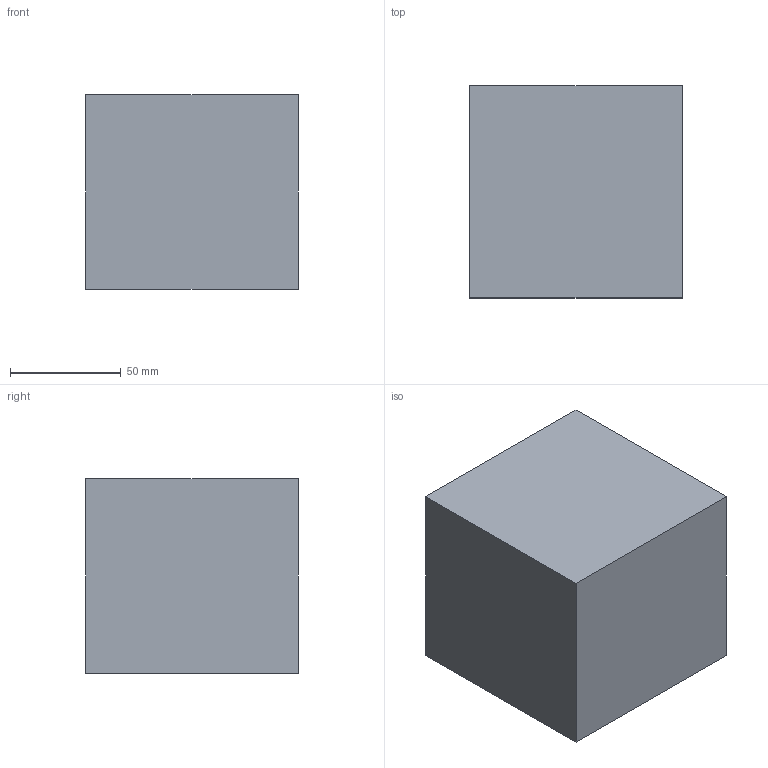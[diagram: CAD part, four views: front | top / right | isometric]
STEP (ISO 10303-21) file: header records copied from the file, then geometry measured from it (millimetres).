
FILE_DESCRIPTION(('Open CASCADE Model'),'2;1');
FILE_NAME('prop_case','2026-08-12T02:42:45',('Author'),('Open CASCADE'), 'Open CASCADE STEP processor 7.9','build123d','Unknown');
FILE_SCHEMA(('AUTOMOTIVE_DESIGN { 1 0 10303 214 1 1 1 1 }'));
Length unit declared in the file: millimetre
Products named in the file (1): prop_case
Bounding box: 96 x 96 x 88 mm (x, y, z)
Volume: 100032 mm3; surface area: 100064 mm2
Topology: 1 solids, 2 shells, 12 faces, 24 edges, 16 vertices
Faces by surface type: plane 12
Entity records: 628 total; most frequent: CARTESIAN_POINT 101, DIRECTION 98, LINE 72, VECTOR 72, ORIENTED_EDGE 48, PCURVE 48, DEFINITIONAL_REPRESENTATION 48, EDGE_CURVE 24
